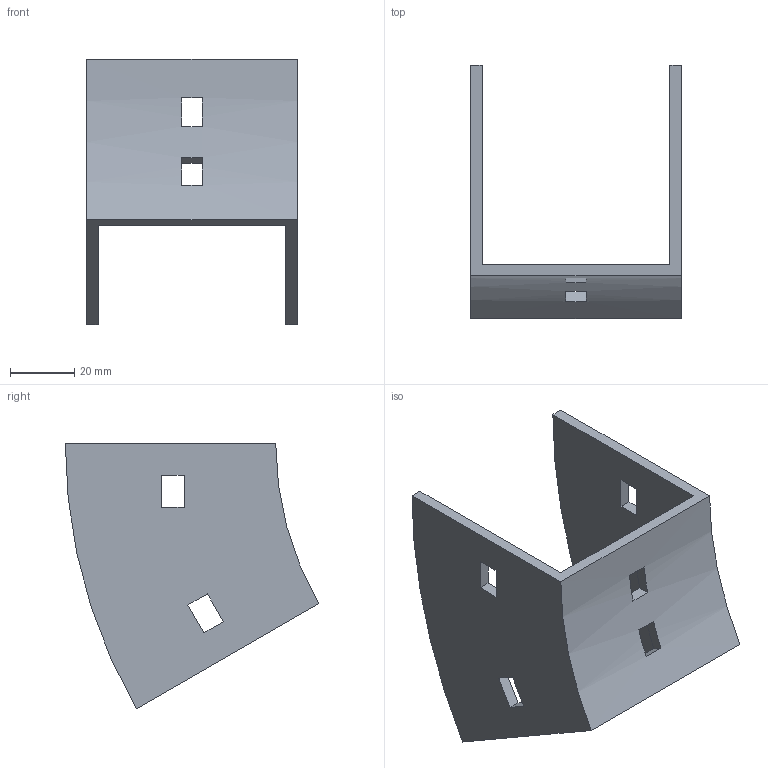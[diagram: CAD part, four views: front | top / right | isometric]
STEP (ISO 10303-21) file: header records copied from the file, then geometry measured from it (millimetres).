
FILE_DESCRIPTION (( 'STEP AP214' ), '1' );
FILE_NAME ('35B1H065.step', '2025-02-21T09:25:43', ( '' ), ( '' ), 'SwSTEP 2.0', 'SolidWorks 2023', '' );
FILE_SCHEMA (( 'AUTOMOTIVE_DESIGN' ));
Length unit declared in the file: millimetre
Products named in the file (1): 35B1H065
Bounding box: 65.5 x 78.9 x 82.75 mm (x, y, z)
Volume: 41382.4 mm3; surface area: 26269.8 mm2
Topology: 1 solids, 1 shells, 34 faces, 96 edges, 64 vertices
Faces by surface type: plane 30, cylinder 4
Entity records: 1143 total; most frequent: CARTESIAN_POINT 195, ORIENTED_EDGE 192, DIRECTION 182, EDGE_CURVE 96, VECTOR 80, LINE 80, VERTEX_POINT 64, AXIS2_PLACEMENT_3D 51
